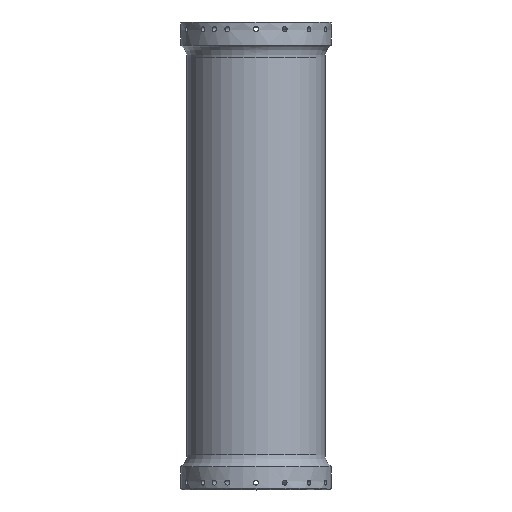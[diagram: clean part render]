
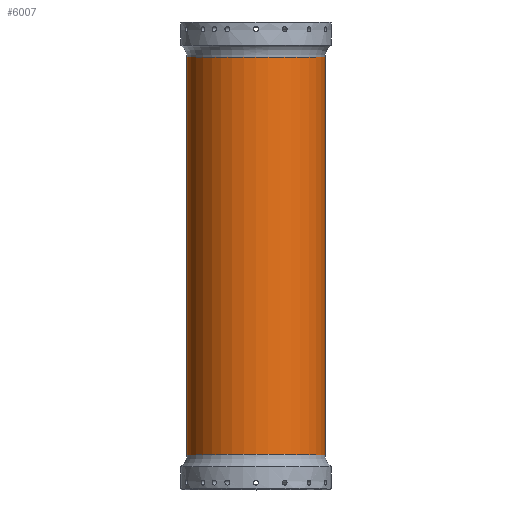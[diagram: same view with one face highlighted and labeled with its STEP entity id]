
A CAD part, top view. The second image highlights one B-rep face of the part: STEP entity #6007.
In plain terms, the highlighted cylindrical face has radius 45 mm (diameter 90 mm), a full revolution.
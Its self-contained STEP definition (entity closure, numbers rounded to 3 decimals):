
#286 = CIRCLE ( 'NONE', #5525, 45. ) ;
#313 = AXIS2_PLACEMENT_3D ( 'NONE', #767, #2721, #2628 ) ;
#446 = EDGE_CURVE ( 'NONE', #5058, #5058, #286, .T. ) ;
#623 = DIRECTION ( 'NONE',  ( 0., 0., 1. ) ) ;
#639 = CARTESIAN_POINT ( 'NONE',  ( 0., -282., -45. ) ) ;
#645 = DIRECTION ( 'NONE',  ( 0., 1., 0. ) ) ;
#737 = EDGE_LOOP ( 'NONE', ( #2054 ) ) ;
#767 = CARTESIAN_POINT ( 'NONE',  ( 0., -23., 0. ) ) ;
#960 = VERTEX_POINT ( 'NONE', #4400 ) ;
#1044 = CYLINDRICAL_SURFACE ( 'NONE', #2864, 45. ) ;
#2054 = ORIENTED_EDGE ( 'NONE', *, *, #446, .T. ) ;
#2567 = CIRCLE ( 'NONE', #313, 45. ) ;
#2628 = DIRECTION ( 'NONE',  ( 0., 0., 1. ) ) ;
#2721 = DIRECTION ( 'NONE',  ( 0., -1., 0. ) ) ;
#2864 = AXIS2_PLACEMENT_3D ( 'NONE', #4974, #3120, #623 ) ;
#3003 = FACE_OUTER_BOUND ( 'NONE', #737, .T. ) ;
#3120 = DIRECTION ( 'NONE',  ( 0., 1., 0. ) ) ;
#3778 = ORIENTED_EDGE ( 'NONE', *, *, #4228, .T. ) ;
#3961 = CARTESIAN_POINT ( 'NONE',  ( 0., -282., 0. ) ) ;
#4228 = EDGE_CURVE ( 'NONE', #960, #960, #2567, .T. ) ;
#4400 = CARTESIAN_POINT ( 'NONE',  ( 0., -23., 45. ) ) ;
#4654 = EDGE_LOOP ( 'NONE', ( #3778 ) ) ;
#4974 = CARTESIAN_POINT ( 'NONE',  ( 0., 0., 0. ) ) ;
#5058 = VERTEX_POINT ( 'NONE', #639 ) ;
#5454 = FACE_OUTER_BOUND ( 'NONE', #4654, .T. ) ;
#5525 = AXIS2_PLACEMENT_3D ( 'NONE', #3961, #645, #5541 ) ;
#5541 = DIRECTION ( 'NONE',  ( 0., 0., -1. ) ) ;
#6007 = ADVANCED_FACE ( 'NONE', ( #3003, #5454 ), #1044, .T. ) ;
